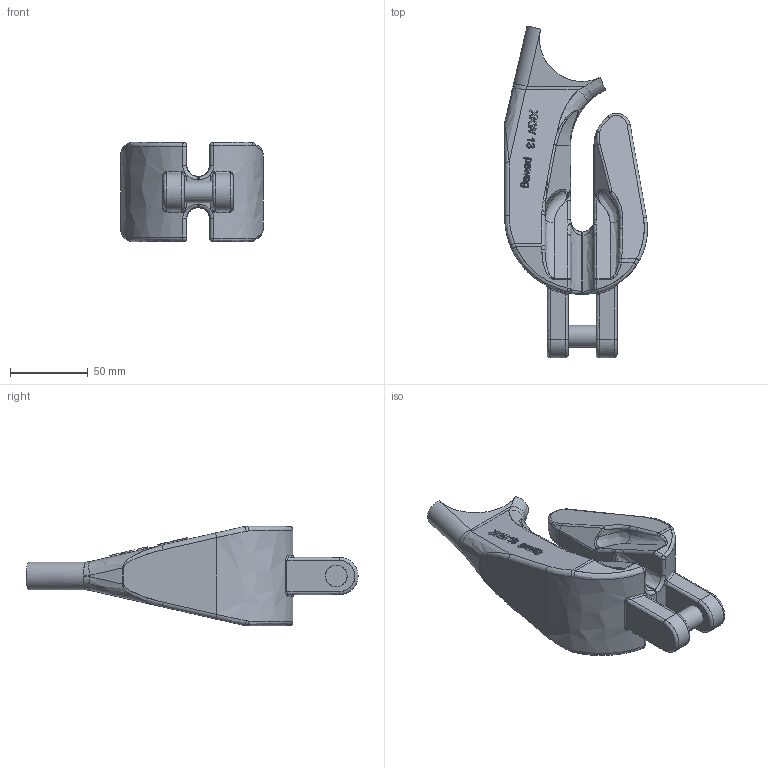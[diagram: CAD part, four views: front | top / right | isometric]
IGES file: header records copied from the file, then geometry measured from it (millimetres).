
Global section: file name: L:\users\SC\3D Kundenmodelle\UG Zg der Ableitung G100\XKW Kundenmodell\XKW 13 Kundenmodell\pewag_XKW_13.igs; native system: NX V4.0; preprocessor: UGS NX IGES V4.0; date: 20100201.112500; units: millimetre
Bounding box: 92 x 213.7 x 64 mm (x, y, z)
Surface area: 57975.4 mm2 (no closed solid volume)
Topology: 0 solids, 0 shells, 450 faces, 2471 edges, 2451 vertices
Faces by surface type: bspline 450
